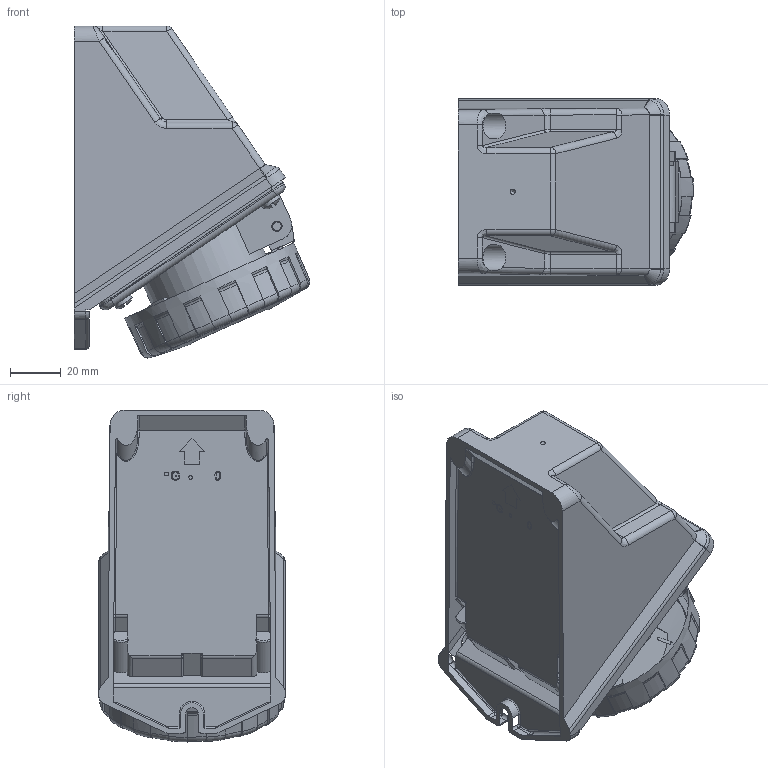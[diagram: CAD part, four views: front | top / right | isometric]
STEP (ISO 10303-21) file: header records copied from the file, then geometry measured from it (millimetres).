
FILE_DESCRIPTION(/* description */ (''),/* implementation_level */ '2;1');
FILE_NAME(/* name */ '4006103.stp',/* time_stamp */ '2017-04-20T21:40:44+02:00',/* author */ (''),/* organization */ (''),/* preprocessor_version */ 'ST-DEVELOPER v16',/* originating_system */ 'SIEMENS PLM Software NX 11.0',/* authorisation */ '');
FILE_SCHEMA (('AUTOMOTIVE_DESIGN { 1 0 10303 214 3 1 1 1 }'));
Length unit declared in the file: millimetre
Products named in the file (1): 4006103_LINKEDEXT_jt
Bounding box: 92.69 x 73.4 x 130.48 mm (x, y, z)
Surface area: 48230.6 mm2 (no closed solid volume)
Topology: 0 solids, 29 shells, 368 faces, 1304 edges, 919 vertices
Faces by surface type: plane 120, cylinder 100, torus 63, bspline 41, cone 37, sphere 7
Full cylindrical faces by diameter (mm): 7.6 x4, 49 x1, 62.1 x1, 62.2 x1
Entity records: 18689 total; most frequent: CARTESIAN_POINT 5266, DIRECTION 2341, ORIENTED_EDGE 2030, EDGE_CURVE 1273, VERTEX_POINT 912, AXIS2_PLACEMENT_3D 899, LINE 543, VECTOR 543
